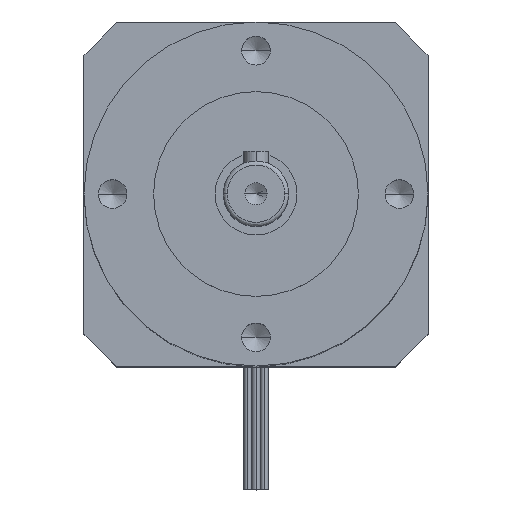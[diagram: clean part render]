
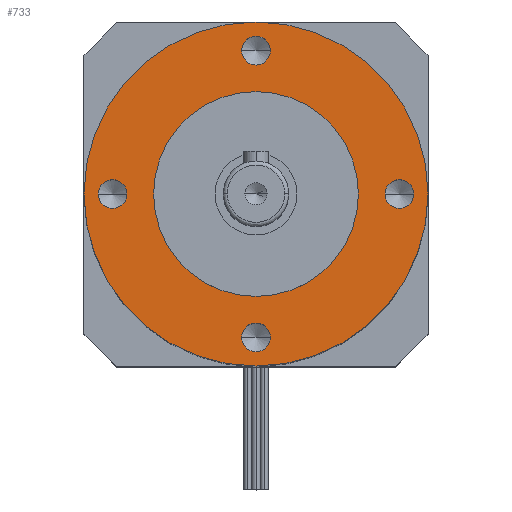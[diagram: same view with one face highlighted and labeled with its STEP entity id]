
A CAD part, top view. The second image highlights one B-rep face of the part: STEP entity #733.
In plain terms, the highlighted planar face has unit normal (0, 0, 1).
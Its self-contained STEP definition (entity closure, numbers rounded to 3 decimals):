
#8 = ORIENTED_EDGE ( 'NONE', *, *, #1469, .F. ) ;
#15 = DIRECTION ( 'NONE',  ( 0., 0., 1. ) ) ;
#25 = CARTESIAN_POINT ( 'NONE',  ( -17.5, 0., 0. ) ) ;
#64 = CIRCLE ( 'NONE', #2087, 1.75 ) ;
#89 = VERTEX_POINT ( 'NONE', #2232 ) ;
#100 = CIRCLE ( 'NONE', #375, 1.75 ) ;
#101 = DIRECTION ( 'NONE',  ( -1., 0., 0. ) ) ;
#169 = DIRECTION ( 'NONE',  ( 0., 0., 1. ) ) ;
#201 = CARTESIAN_POINT ( 'NONE',  ( 17.5, 0., 0. ) ) ;
#224 = DIRECTION ( 'NONE',  ( 0., 0., -1. ) ) ;
#290 = VERTEX_POINT ( 'NONE', #758 ) ;
#301 = PLANE ( 'NONE',  #2028 ) ;
#375 = AXIS2_PLACEMENT_3D ( 'NONE', #201, #625, #1764 ) ;
#385 = VERTEX_POINT ( 'NONE', #1465 ) ;
#391 = EDGE_CURVE ( 'NONE', #89, #1398, #2689, .T. ) ;
#408 = FACE_OUTER_BOUND ( 'NONE', #2068, .T. ) ;
#427 = AXIS2_PLACEMENT_3D ( 'NONE', #25, #15, #2019 ) ;
#485 = DIRECTION ( 'NONE',  ( 0., 0., 1. ) ) ;
#502 = ORIENTED_EDGE ( 'NONE', *, *, #1216, .F. ) ;
#559 = CARTESIAN_POINT ( 'NONE',  ( 0., 17.5, 0. ) ) ;
#569 = DIRECTION ( 'NONE',  ( 0., 0., 1. ) ) ;
#581 = DIRECTION ( 'NONE',  ( -1., 0., 0. ) ) ;
#585 = AXIS2_PLACEMENT_3D ( 'NONE', #1230, #569, #2597 ) ;
#625 = DIRECTION ( 'NONE',  ( 0., 0., 1. ) ) ;
#649 = CIRCLE ( 'NONE', #585, 1.75 ) ;
#662 = VERTEX_POINT ( 'NONE', #902 ) ;
#714 = CARTESIAN_POINT ( 'NONE',  ( 0., 17.5, 0. ) ) ;
#716 = ORIENTED_EDGE ( 'NONE', *, *, #921, .F. ) ;
#733 = ADVANCED_FACE ( 'NONE', ( #1644, #2062, #1288, #2202, #1006, #408 ), #301, .F. ) ;
#758 = CARTESIAN_POINT ( 'NONE',  ( -1.75, 17.5, 0. ) ) ;
#762 = DIRECTION ( 'NONE',  ( 0., 0., -1. ) ) ;
#784 = DIRECTION ( 'NONE',  ( 0., 0., 1. ) ) ;
#816 = CARTESIAN_POINT ( 'NONE',  ( -19.25, 0., 0. ) ) ;
#902 = CARTESIAN_POINT ( 'NONE',  ( 1.75, 17.5, 0. ) ) ;
#921 = EDGE_CURVE ( 'NONE', #1580, #1631, #1319, .T. ) ;
#969 = CARTESIAN_POINT ( 'NONE',  ( -21., -21., 0. ) ) ;
#993 = EDGE_CURVE ( 'NONE', #290, #662, #1212, .T. ) ;
#1006 = FACE_BOUND ( 'NONE', #2605, .T. ) ;
#1069 = CARTESIAN_POINT ( 'NONE',  ( 0., -17.5, 0. ) ) ;
#1082 = AXIS2_PLACEMENT_3D ( 'NONE', #1297, #224, #2871 ) ;
#1083 = DIRECTION ( 'NONE',  ( 0., 0., 1. ) ) ;
#1102 = EDGE_CURVE ( 'NONE', #2222, #2112, #2263, .T. ) ;
#1132 = AXIS2_PLACEMENT_3D ( 'NONE', #1938, #2377, #1497 ) ;
#1160 = EDGE_CURVE ( 'NONE', #385, #1979, #100, .T. ) ;
#1212 = CIRCLE ( 'NONE', #1697, 1.75 ) ;
#1216 = EDGE_CURVE ( 'NONE', #1485, #2452, #64, .T. ) ;
#1230 = CARTESIAN_POINT ( 'NONE',  ( 17.5, 0., 0. ) ) ;
#1239 = ORIENTED_EDGE ( 'NONE', *, *, #2364, .F. ) ;
#1257 = EDGE_CURVE ( 'NONE', #2112, #2222, #2705, .T. ) ;
#1288 = FACE_BOUND ( 'NONE', #2704, .T. ) ;
#1297 = CARTESIAN_POINT ( 'NONE',  ( 0., 0., 0. ) ) ;
#1319 = CIRCLE ( 'NONE', #1698, 21. ) ;
#1338 = CARTESIAN_POINT ( 'NONE',  ( -12.5, 0., 0. ) ) ;
#1398 = VERTEX_POINT ( 'NONE', #1338 ) ;
#1399 = AXIS2_PLACEMENT_3D ( 'NONE', #2433, #1083, #2424 ) ;
#1465 = CARTESIAN_POINT ( 'NONE',  ( 15.75, 0., 0. ) ) ;
#1469 = EDGE_CURVE ( 'NONE', #662, #290, #2183, .T. ) ;
#1479 = AXIS2_PLACEMENT_3D ( 'NONE', #2616, #1718, #1935 ) ;
#1485 = VERTEX_POINT ( 'NONE', #2725 ) ;
#1497 = DIRECTION ( 'NONE',  ( -1., 0., 0. ) ) ;
#1580 = VERTEX_POINT ( 'NONE', #1886 ) ;
#1631 = VERTEX_POINT ( 'NONE', #2118 ) ;
#1641 = EDGE_CURVE ( 'NONE', #2452, #1485, #2851, .T. ) ;
#1643 = DIRECTION ( 'NONE',  ( 0., 0., -1. ) ) ;
#1644 = FACE_BOUND ( 'NONE', #2655, .T. ) ;
#1664 = DIRECTION ( 'NONE',  ( -1., 0., 0. ) ) ;
#1667 = ORIENTED_EDGE ( 'NONE', *, *, #993, .F. ) ;
#1675 = CARTESIAN_POINT ( 'NONE',  ( 0., 0., 0. ) ) ;
#1697 = AXIS2_PLACEMENT_3D ( 'NONE', #559, #784, #101 ) ;
#1698 = AXIS2_PLACEMENT_3D ( 'NONE', #1675, #762, #1664 ) ;
#1718 = DIRECTION ( 'NONE',  ( 0., 0., 1. ) ) ;
#1764 = DIRECTION ( 'NONE',  ( -1., 0., 0. ) ) ;
#1773 = EDGE_CURVE ( 'NONE', #1631, #1580, #2351, .T. ) ;
#1838 = AXIS2_PLACEMENT_3D ( 'NONE', #1069, #2189, #581 ) ;
#1886 = CARTESIAN_POINT ( 'NONE',  ( 21., 0., 0. ) ) ;
#1904 = ORIENTED_EDGE ( 'NONE', *, *, #2685, .F. ) ;
#1935 = DIRECTION ( 'NONE',  ( -1., 0., 0. ) ) ;
#1938 = CARTESIAN_POINT ( 'NONE',  ( -17.5, 0., 0. ) ) ;
#1967 = CARTESIAN_POINT ( 'NONE',  ( 0., -17.5, 0. ) ) ;
#1979 = VERTEX_POINT ( 'NONE', #2285 ) ;
#2019 = DIRECTION ( 'NONE',  ( -1., 0., 0. ) ) ;
#2028 = AXIS2_PLACEMENT_3D ( 'NONE', #969, #1643, #2531 ) ;
#2046 = AXIS2_PLACEMENT_3D ( 'NONE', #714, #485, #2055 ) ;
#2055 = DIRECTION ( 'NONE',  ( -1., 0., 0. ) ) ;
#2062 = FACE_BOUND ( 'NONE', #2600, .T. ) ;
#2068 = EDGE_LOOP ( 'NONE', ( #716, #2210 ) ) ;
#2087 = AXIS2_PLACEMENT_3D ( 'NONE', #1967, #169, #2646 ) ;
#2094 = CIRCLE ( 'NONE', #1399, 12.5 ) ;
#2112 = VERTEX_POINT ( 'NONE', #816 ) ;
#2118 = CARTESIAN_POINT ( 'NONE',  ( -21., 0., 0. ) ) ;
#2183 = CIRCLE ( 'NONE', #2046, 1.75 ) ;
#2189 = DIRECTION ( 'NONE',  ( 0., 0., 1. ) ) ;
#2202 = FACE_BOUND ( 'NONE', #2207, .T. ) ;
#2207 = EDGE_LOOP ( 'NONE', ( #2856, #2480 ) ) ;
#2210 = ORIENTED_EDGE ( 'NONE', *, *, #1773, .F. ) ;
#2222 = VERTEX_POINT ( 'NONE', #2609 ) ;
#2232 = CARTESIAN_POINT ( 'NONE',  ( 12.5, 0., 0. ) ) ;
#2263 = CIRCLE ( 'NONE', #1132, 1.75 ) ;
#2285 = CARTESIAN_POINT ( 'NONE',  ( 19.25, 0., 0. ) ) ;
#2349 = ORIENTED_EDGE ( 'NONE', *, *, #1641, .F. ) ;
#2351 = CIRCLE ( 'NONE', #1082, 21. ) ;
#2364 = EDGE_CURVE ( 'NONE', #1398, #89, #2094, .T. ) ;
#2377 = DIRECTION ( 'NONE',  ( 0., 0., 1. ) ) ;
#2424 = DIRECTION ( 'NONE',  ( -1., 0., 0. ) ) ;
#2433 = CARTESIAN_POINT ( 'NONE',  ( 0., 0., 0. ) ) ;
#2452 = VERTEX_POINT ( 'NONE', #2720 ) ;
#2480 = ORIENTED_EDGE ( 'NONE', *, *, #1102, .F. ) ;
#2531 = DIRECTION ( 'NONE',  ( -1., 0., 0. ) ) ;
#2597 = DIRECTION ( 'NONE',  ( -1., 0., 0. ) ) ;
#2600 = EDGE_LOOP ( 'NONE', ( #2659, #1904 ) ) ;
#2605 = EDGE_LOOP ( 'NONE', ( #1239, #2917 ) ) ;
#2609 = CARTESIAN_POINT ( 'NONE',  ( -15.75, 0., 0. ) ) ;
#2616 = CARTESIAN_POINT ( 'NONE',  ( 0., 0., 0. ) ) ;
#2646 = DIRECTION ( 'NONE',  ( -1., 0., 0. ) ) ;
#2655 = EDGE_LOOP ( 'NONE', ( #502, #2349 ) ) ;
#2659 = ORIENTED_EDGE ( 'NONE', *, *, #1160, .F. ) ;
#2685 = EDGE_CURVE ( 'NONE', #1979, #385, #649, .T. ) ;
#2689 = CIRCLE ( 'NONE', #1479, 12.5 ) ;
#2704 = EDGE_LOOP ( 'NONE', ( #1667, #8 ) ) ;
#2705 = CIRCLE ( 'NONE', #427, 1.75 ) ;
#2720 = CARTESIAN_POINT ( 'NONE',  ( 1.75, -17.5, 0. ) ) ;
#2725 = CARTESIAN_POINT ( 'NONE',  ( -1.75, -17.5, 0. ) ) ;
#2851 = CIRCLE ( 'NONE', #1838, 1.75 ) ;
#2856 = ORIENTED_EDGE ( 'NONE', *, *, #1257, .F. ) ;
#2871 = DIRECTION ( 'NONE',  ( -1., 0., 0. ) ) ;
#2917 = ORIENTED_EDGE ( 'NONE', *, *, #391, .F. ) ;
